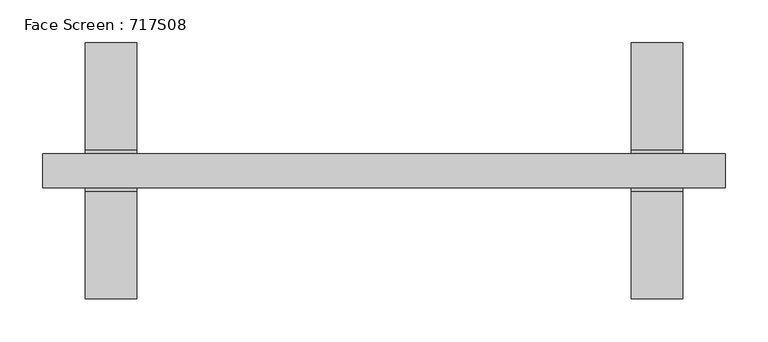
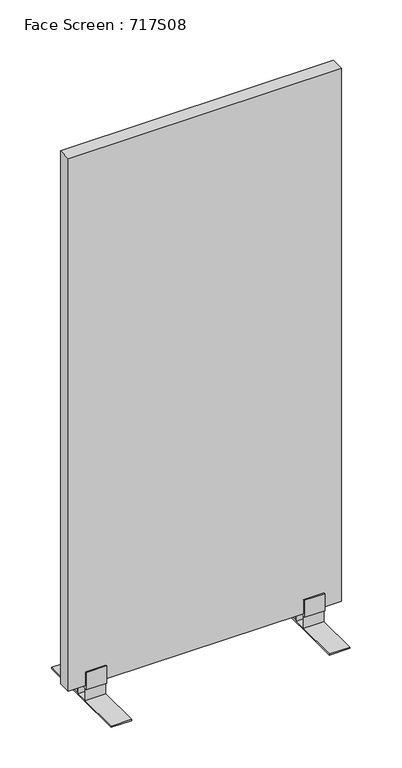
"""IFC4 building model written with IfcOpenShell, lengths in millimetres: furniture geometry, Face Screen : 717S08."""

import ifcopenshell
import ifcopenshell.guid

model = None  # the IFC model being written
_history = None  # IfcOwnerHistory: only IFC2X3 demands one
_inside = {}  # id of a spatial element -> (the spatial element, [elements in it])
_under = {}  # id of a project, library or spatial element -> (it, [spatial elements below it])
_declared = {}  # id of a project -> (the project, [libraries it declares])
_typed = {}  # id of a type object -> (the type object, [elements of that type])
_made_of = {}  # id of a material, layer set ... -> (it, [elements and type objects made of it])


def new_model(schema):
    """Start an empty IFC model of exactly this schema.

    Asked for "IFC4X3", IfcOpenShell would pick the latest addendum, in which some entities
    have other attributes; the version numbers below select the first issue.
    IFC2X3 requires an IfcOwnerHistory on every rooted entity: one is made here for all.
    """
    global model, _history
    if schema == "IFC4X3":
        model = ifcopenshell.file(schema_version=(4, 3, 0, 0))
    else:
        model = ifcopenshell.file(schema=schema)
    _inside.clear()
    _under.clear()
    _declared.clear()
    _typed.clear()
    _made_of.clear()
    _history = None
    if model.schema == "IFC2X3":
        org = make("IfcOrganization", Name="unknown")
        user = make(
            "IfcPersonAndOrganization",
            ThePerson=make("IfcPerson", FamilyName="unknown"),
            TheOrganization=org,
        )
        app = make(
            "IfcApplication",
            ApplicationDeveloper=org,
            Version="unknown",
            ApplicationFullName="unknown",
            ApplicationIdentifier="unknown",
        )
        _history = make(
            "IfcOwnerHistory",
            OwningUser=user,
            OwningApplication=app,
            ChangeAction="ADDED",
            CreationDate=0,
        )
    return model


def make(cls, **values):
    """One entity of the class cls with the attributes given. An attribute that is None is left unset."""
    return model.create_entity(
        cls, **{name: value for name, value in values.items() if value is not None}
    )


def rooted(cls, **values):
    """An entity with a GlobalId (a new one), such as an element, a storey or a relation."""
    return make(cls, GlobalId=ifcopenshell.guid.new(), OwnerHistory=_history, **values)


def si_unit(unit_type, name, prefix=None):
    """IfcSIUnit, for example si_unit("LENGTHUNIT", "METRE", prefix="MILLI")."""
    return make("IfcSIUnit", UnitType=unit_type, Prefix=prefix, Name=name)


def assignment(units):
    """IfcUnitAssignment: the units of a project."""
    return None if units is None else make("IfcUnitAssignment", Units=units)


def point(xyz):
    """IfcCartesianPoint."""
    return None if xyz is None else make("IfcCartesianPoint", Coordinates=xyz)


def direction(xyz):
    """IfcDirection."""
    return None if xyz is None else make("IfcDirection", DirectionRatios=xyz)


def frame(location, z_axis=None, x_axis=None):
    """IfcAxis2Placement3D, a coordinate frame: its origin and axes. An axis left out is left unset."""
    return make(
        "IfcAxis2Placement3D",
        Location=point(location),
        Axis=direction(z_axis),
        RefDirection=direction(x_axis),
    )


def origin():
    """The frame at (0, 0, 0) with its axes left unset."""
    return frame((0.0, 0.0, 0.0))


def place(relative_to, where):
    """IfcLocalPlacement: puts the frame where relative to a parent placement (None: the world)."""
    return make(
        "IfcLocalPlacement", PlacementRelTo=relative_to, RelativePlacement=where
    )


def context(
    kind, dimensions, precision=None, world=None, true_north=None, identifier=None
):
    """IfcGeometricRepresentationContext, for example the 3D "Model" context."""
    return make(
        "IfcGeometricRepresentationContext",
        ContextIdentifier=identifier,
        ContextType=kind,
        CoordinateSpaceDimension=dimensions,
        Precision=precision,
        WorldCoordinateSystem=world,
        TrueNorth=true_north,
    )


def project(units=None, contexts=None):
    """IfcProject with its units and contexts."""
    return rooted(
        "IfcProject",
        Name="project",
        RepresentationContexts=contexts,
        UnitsInContext=assignment(units),
    )


def spatial(cls, under=None, at=None, **own):
    """A site, building, storey or space (cls), placed at a placement, below another one or the project."""
    s = rooted(cls, ObjectPlacement=at, **own)
    if under is not None:
        _under.setdefault(under.id(), (under, []))[1].append(s)
    return s


def polyline(points):
    """IfcPolyline through the points."""
    return make("IfcPolyline", Points=[point(p) for p in points])


def outline(outer, holes=None, kind="AREA"):
    """IfcArbitraryClosedProfileDef: a profile drawn as a closed curve; with holes, ...WithVoids."""
    if holes is None:
        return make("IfcArbitraryClosedProfileDef", ProfileType=kind, OuterCurve=outer)
    return make(
        "IfcArbitraryProfileDefWithVoids",
        ProfileType=kind,
        OuterCurve=outer,
        InnerCurves=holes,
    )


def extrude(swept, where, along, depth):
    """IfcExtrudedAreaSolid: the profile swept, set in the frame where, extruded along a direction by depth."""
    return make(
        "IfcExtrudedAreaSolid",
        SweptArea=swept,
        Position=where,
        ExtrudedDirection=direction(along),
        Depth=depth,
    )


def shape(context_of_items, identifier, shape_type, items):
    """IfcShapeRepresentation: the items that make up one representation, for example the "Body"."""
    return make(
        "IfcShapeRepresentation",
        ContextOfItems=context_of_items,
        RepresentationIdentifier=identifier,
        RepresentationType=shape_type,
        Items=items,
    )


def source(mapping_origin, context_of_items, identifier, shape_type, items):
    """IfcRepresentationMap: a shape defined once, which mapped items show again and again."""
    return make(
        "IfcRepresentationMap",
        MappingOrigin=mapping_origin,
        MappedRepresentation=shape(context_of_items, identifier, shape_type, items),
    )


def transform(
    local_origin,
    x_axis=None,
    y_axis=None,
    z_axis=None,
    scale=None,
    scale2=None,
    scale3=None,
    uniform=True,
):
    """IfcCartesianTransformationOperator3D, or its non-uniform kind. x_axis, y_axis, z_axis: its Axis1, 2, 3."""
    if uniform:
        return make(
            "IfcCartesianTransformationOperator3D",
            Axis1=direction(x_axis),
            Axis2=direction(y_axis),
            LocalOrigin=point(local_origin),
            Scale=scale,
            Axis3=direction(z_axis),
        )
    return make(
        "IfcCartesianTransformationOperator3DnonUniform",
        Axis1=direction(x_axis),
        Axis2=direction(y_axis),
        LocalOrigin=point(local_origin),
        Scale=scale,
        Axis3=direction(z_axis),
        Scale2=scale2,
        Scale3=scale3,
    )


def mapped(mapping_source, mapping_target):
    """IfcMappedItem: shows the shape of a source again, moved by a transform."""
    return make(
        "IfcMappedItem", MappingSource=mapping_source, MappingTarget=mapping_target
    )


def made_of(thing, what):
    """Note that an element or type object is made of a material, layer set ...; save() writes the relation."""
    if what is not None:
        _made_of.setdefault(what.id(), (what, []))[1].append(thing)
    return thing


def element(
    cls,
    number,
    at=None,
    inside=None,
    cuts=None,
    type_object=None,
    material=None,
    context=None,
    identifier="Body",
    shape_type=None,
    held_by="IfcProductDefinitionShape",
    body=None,
    shapes=None,
    **own,
):
    """One element of the class cls, such as IfcWall. Its Tag is "e" and its number.

    at: its placement. inside: the storey or other place that contains it. cuts: it is an
    opening in that element (IfcRelVoidsElement). A single representation is given by context,
    identifier, shape_type and body (its items); several are given by shapes. held_by: the class
    of the entity that holds the representations. save() writes the other relations.
    """
    e = rooted(cls, Tag="e%d" % number, ObjectPlacement=at, **own)
    if body is not None:
        shapes = [shape(context, identifier, shape_type, body)]
    if shapes is not None:
        e.Representation = make(held_by, Representations=shapes)
    if inside is not None:
        _inside.setdefault(inside.id(), (inside, []))[1].append(e)
    if cuts is not None:
        rooted(
            "IfcRelVoidsElement", RelatingBuildingElement=cuts, RelatedOpeningElement=e
        )
    if type_object is not None:
        _typed.setdefault(type_object.id(), (type_object, []))[1].append(e)
    return made_of(e, material)


def aggregate(whole, parts):
    """IfcRelAggregates: a whole, such as a stair, and the parts it consists of."""
    return rooted("IfcRelAggregates", RelatingObject=whole, RelatedObjects=parts)


def save(model, path):
    """Write the relations noted so far, then the file.

    IfcRelAggregates (storeys below a building ...), IfcRelContainedInSpatialStructure (elements
    in a storey), IfcRelDefinesByType, IfcRelAssociatesMaterial and IfcRelDeclares: one each for
    every whole, place, type object, material and project.
    """
    for whole, parts in _under.values():
        aggregate(whole, parts)
    for where, things in _inside.values():
        rooted(
            "IfcRelContainedInSpatialStructure",
            RelatedElements=things,
            RelatingStructure=where,
        )
    for kind, things in _typed.values():
        rooted("IfcRelDefinesByType", RelatedObjects=things, RelatingType=kind)
    for what, things in _made_of.values():
        rooted("IfcRelAssociatesMaterial", RelatedObjects=things, RelatingMaterial=what)
    for by, libraries in _declared.values():
        rooted("IfcRelDeclares", RelatingContext=by, RelatedDefinitions=libraries)
    model.write(path)


def face_screen_717s08_8108ae5a(model_context):
    return source(origin(), model_context, "Body", "SweptSolid", [
        extrude(outline(polyline([(-20.0, 4.0), (-20.0, 40.0), (-24.0, 40.0), (-24.0000047, 93.0166638), (-20.0, 93.0166638), (-20.0, 50.0955899), (20.0, 50.0955899), (20.0, 93.0166638), (24.0, 93.0166638), (23.9999953, 40.0), (20.0, 40.0), (20.0, 4.0), (149.9935713, 4.0), (149.9935713, 0.0), (-150.0064287, 0.0), (-150.0064287, 4.0), (-20.0, 4.0)]), holes=[polyline([(16.0, 40.0), (-16.0, 40.0), (-16.0, 4.0), (16.0, 4.0), (16.0, 40.0)])]), frame((290.0, 0.0, 0.0), z_axis=(1.0, 0.0, 0.0), x_axis=(0.0, 1.0, 0.0)), (0.0, 0.0, 1.0), 60.0),
        extrude(outline(polyline([(20.0, 4.0), (150.0064287, 4.0), (150.0064287, 0.0), (-149.9935713, 0.0), (-149.9935713, 4.0), (-20.0, 4.0), (-20.0, 40.0), (-23.9999953, 40.0), (-24.0, 93.0166638), (-20.0, 93.0166638), (-20.0, 50.0955899), (20.0, 50.0955899), (20.0, 93.0166638), (24.0000047, 93.0166638), (24.0, 40.0), (20.0, 40.0), (20.0, 4.0)]), holes=[polyline([(-16.0, 40.0), (-16.0, 4.0), (16.0, 4.0), (16.0, 40.0), (-16.0, 40.0)])]), frame((-350.0, 0.0, 0.0), z_axis=(1.0, 0.0, 0.0), x_axis=(0.0, 1.0, 0.0)), (0.0, 0.0, 1.0), 60.0),
        extrude(outline(polyline([(400.0, 20.0), (400.0, -20.0), (-400.0, -20.0), (-400.0, 20.0), (400.0, 20.0)])), frame((0.0, 0.0, 50.0), z_axis=(0.0, 0.0, 1.0), x_axis=(1.0, 0.0, 0.0)), (0.0, 0.0, 1.0), 1650.0),
    ])


if __name__ == "__main__":
    model = new_model("IFC4")
    model_context = context("Model", 3, world=origin())
    ifc_project = project(units=[si_unit("LENGTHUNIT", "METRE", prefix="MILLI")], contexts=[model_context])
    site = spatial("IfcSite", under=ifc_project)
    building = spatial("IfcBuilding", under=site)
    placement = place(None, origin())
    face_screen_717s08_shape = face_screen_717s08_8108ae5a(model_context)
    element("IfcFurniture", 1, ObjectType="Face Screen : 717S08", at=placement, inside=building, context=model_context, shape_type="MappedRepresentation", body=[
        mapped(face_screen_717s08_shape, transform((0.0, 0.0, 0.0), x_axis=(1.0, 0.0, 0.0), y_axis=(0.0, 1.0, 0.0), z_axis=(0.0, 0.0, 1.0))),
    ])
    save(model, "model.ifc")
